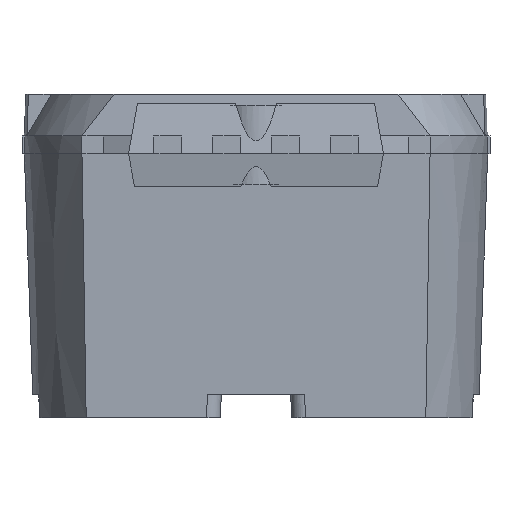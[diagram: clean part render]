
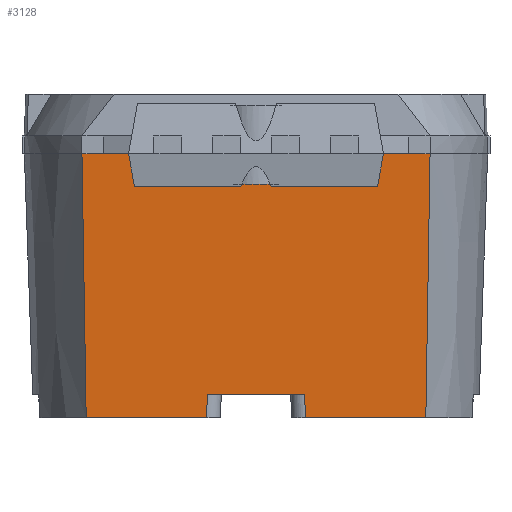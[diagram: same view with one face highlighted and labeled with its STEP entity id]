
A CAD part, front view. The second image highlights one B-rep face of the part: STEP entity #3128.
In plain terms, the highlighted planar face has unit normal (0, -0.999, -0.035) as drawn and (0, -0.999, 0.035) by its records, which use the part's own axes.
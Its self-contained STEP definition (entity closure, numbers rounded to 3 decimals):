
#227 = VERTEX_POINT ( 'NONE', #4248 ) ;
#265 = EDGE_CURVE ( 'NONE', #227, #3396, #6331, .T. ) ;
#277 = ORIENTED_EDGE ( 'NONE', *, *, #4855, .T. ) ;
#574 = CARTESIAN_POINT ( 'NONE',  ( 1.605, -3.3, 0. ) ) ;
#577 = EDGE_CURVE ( 'NONE', #6255, #4517, #5832, .T. ) ;
#580 = CARTESIAN_POINT ( 'NONE',  ( -1.067, -3.101, 5.7 ) ) ;
#602 = CARTESIAN_POINT ( 'NONE',  ( -3.696, -3.167, 3.8 ) ) ;
#722 = CARTESIAN_POINT ( 'NONE',  ( -0.872, -3.296, 0.101 ) ) ;
#783 = EDGE_CURVE ( 'NONE', #957, #3226, #1942, .T. ) ;
#833 = CARTESIAN_POINT ( 'NONE',  ( 1.05, -3.118, 5.2 ) ) ;
#882 = EDGE_CURVE ( 'NONE', #227, #3679, #7308, .T. ) ;
#889 = CARTESIAN_POINT ( 'NONE',  ( 3.756, -3.3, 0. ) ) ;
#957 = VERTEX_POINT ( 'NONE', #3720 ) ;
#1094 = DIRECTION ( 'NONE',  ( 0., -0.035, -0.999 ) ) ;
#1177 = VERTEX_POINT ( 'NONE', #3955 ) ;
#1242 = CARTESIAN_POINT ( 'NONE',  ( -3.756, -3.101, 5.7 ) ) ;
#1305 = ORIENTED_EDGE ( 'NONE', *, *, #1729, .T. ) ;
#1313 = EDGE_CURVE ( 'NONE', #3497, #4517, #7655, .T. ) ;
#1335 = CARTESIAN_POINT ( 'NONE',  ( -3.756, -3.3, 0. ) ) ;
#1341 = ORIENTED_EDGE ( 'NONE', *, *, #6390, .T. ) ;
#1363 = DIRECTION ( 'NONE',  ( 1., 0., 0. ) ) ;
#1373 = VERTEX_POINT ( 'NONE', #5441 ) ;
#1379 = CARTESIAN_POINT ( 'NONE',  ( -3.756, -3.118, 5.2 ) ) ;
#1412 = VECTOR ( 'NONE', #5383, 1000. ) ;
#1432 = LINE ( 'NONE', #6005, #5415 ) ;
#1533 = EDGE_CURVE ( 'NONE', #2166, #1177, #4236, .T. ) ;
#1643 = CARTESIAN_POINT ( 'NONE',  ( -3.756, -3.3, 0. ) ) ;
#1652 = VECTOR ( 'NONE', #3672, 1000. ) ;
#1729 = EDGE_CURVE ( 'NONE', #5762, #2166, #3648, .T. ) ;
#1746 = CARTESIAN_POINT ( 'NONE',  ( -3.756, -3.3, 0. ) ) ;
#1788 = VECTOR ( 'NONE', #4086, 1000. ) ;
#1799 = CARTESIAN_POINT ( 'NONE',  ( -3.756, -3.3, 0. ) ) ;
#1942 = LINE ( 'NONE', #1643, #2026 ) ;
#1966 = DIRECTION ( 'NONE',  ( 1., 0., 0. ) ) ;
#2026 = VECTOR ( 'NONE', #7051, 1000. ) ;
#2040 = CARTESIAN_POINT ( 'NONE',  ( 3.665, -3.101, 5.7 ) ) ;
#2054 = LINE ( 'NONE', #7664, #7530 ) ;
#2143 = CARTESIAN_POINT ( 'NONE',  ( 3.756, -3.3, 0. ) ) ;
#2166 = VERTEX_POINT ( 'NONE', #5995 ) ;
#2177 = AXIS2_PLACEMENT_3D ( 'NONE', #4571, #2781, #1094 ) ;
#2317 = CARTESIAN_POINT ( 'NONE',  ( -3.665, -3.101, 5.7 ) ) ;
#2350 = VECTOR ( 'NONE', #2546, 1000. ) ;
#2399 = CARTESIAN_POINT ( 'NONE',  ( -3.756, -3.101, 5.7 ) ) ;
#2511 = DIRECTION ( 'NONE',  ( 1., 0., 0. ) ) ;
#2543 = VECTOR ( 'NONE', #3585, 1000. ) ;
#2546 = DIRECTION ( 'NONE',  ( 1., 0., 0. ) ) ;
#2607 = CARTESIAN_POINT ( 'NONE',  ( 3.696, -3.167, 3.8 ) ) ;
#2659 = CARTESIAN_POINT ( 'NONE',  ( 3.726, -3.234, 1.9 ) ) ;
#2749 = EDGE_CURVE ( 'NONE', #4791, #3679, #1432, .T. ) ;
#2772 = CARTESIAN_POINT ( 'NONE',  ( 1.067, -3.101, 5.7 ) ) ;
#2781 = DIRECTION ( 'NONE',  ( 0., -0.999, 0.035 ) ) ;
#2915 = CARTESIAN_POINT ( 'NONE',  ( 0.935, -3.3, 0. ) ) ;
#2922 = VECTOR ( 'NONE', #6805, 1000. ) ;
#2983 = LINE ( 'NONE', #1242, #1412 ) ;
#3030 = DIRECTION ( 'NONE',  ( -0.035, -0.035, -0.999 ) ) ;
#3128 = ADVANCED_FACE ( 'NONE', ( #6514 ), #7029, .T. ) ;
#3226 = VERTEX_POINT ( 'NONE', #2915 ) ;
#3343 = VERTEX_POINT ( 'NONE', #5183 ) ;
#3369 = ORIENTED_EDGE ( 'NONE', *, *, #5998, .F. ) ;
#3396 = VERTEX_POINT ( 'NONE', #580 ) ;
#3436 = CARTESIAN_POINT ( 'NONE',  ( -3.726, -3.234, 1.9 ) ) ;
#3497 = VERTEX_POINT ( 'NONE', #6034 ) ;
#3553 = ORIENTED_EDGE ( 'NONE', *, *, #577, .F. ) ;
#3561 = VECTOR ( 'NONE', #7626, 1000. ) ;
#3585 = DIRECTION ( 'NONE',  ( -0.035, 0.035, 0.999 ) ) ;
#3648 = LINE ( 'NONE', #4170, #3561 ) ;
#3672 = DIRECTION ( 'NONE',  ( 1., 0., 0. ) ) ;
#3679 = VERTEX_POINT ( 'NONE', #833 ) ;
#3707 = ORIENTED_EDGE ( 'NONE', *, *, #6115, .T. ) ;
#3720 = CARTESIAN_POINT ( 'NONE',  ( 0.335, -3.3, 0. ) ) ;
#3803 = ORIENTED_EDGE ( 'NONE', *, *, #783, .T. ) ;
#3854 = VERTEX_POINT ( 'NONE', #574 ) ;
#3912 = LINE ( 'NONE', #4313, #2350 ) ;
#3955 = CARTESIAN_POINT ( 'NONE',  ( -0.335, -3.3, 0. ) ) ;
#4036 = ORIENTED_EDGE ( 'NONE', *, *, #1533, .T. ) ;
#4046 = LINE ( 'NONE', #2399, #5251 ) ;
#4079 = ORIENTED_EDGE ( 'NONE', *, *, #882, .F. ) ;
#4086 = DIRECTION ( 'NONE',  ( 1., 0., 0. ) ) ;
#4170 = CARTESIAN_POINT ( 'NONE',  ( -3.756, -3.3, 0. ) ) ;
#4235 = EDGE_CURVE ( 'NONE', #1177, #957, #3912, .T. ) ;
#4236 = LINE ( 'NONE', #6778, #2922 ) ;
#4248 = CARTESIAN_POINT ( 'NONE',  ( -1.05, -3.118, 5.2 ) ) ;
#4313 = CARTESIAN_POINT ( 'NONE',  ( -3.756, -3.3, 0. ) ) ;
#4363 = EDGE_CURVE ( 'NONE', #1373, #3396, #2983, .T. ) ;
#4367 = VERTEX_POINT ( 'NONE', #7390 ) ;
#4517 = VERTEX_POINT ( 'NONE', #2143 ) ;
#4571 = CARTESIAN_POINT ( 'NONE',  ( -3.756, -3.3, 0. ) ) ;
#4791 = VERTEX_POINT ( 'NONE', #2772 ) ;
#4855 = EDGE_CURVE ( 'NONE', #4367, #3343, #2054, .T. ) ;
#4945 = ORIENTED_EDGE ( 'NONE', *, *, #2749, .T. ) ;
#4970 = VECTOR ( 'NONE', #1363, 1000. ) ;
#5183 = CARTESIAN_POINT ( 'NONE',  ( -2.205, -3.3, 0. ) ) ;
#5251 = VECTOR ( 'NONE', #6530, 1000. ) ;
#5383 = DIRECTION ( 'NONE',  ( 1., 0., 0. ) ) ;
#5415 = VECTOR ( 'NONE', #3030, 1000. ) ;
#5435 = ORIENTED_EDGE ( 'NONE', *, *, #4235, .T. ) ;
#5441 = CARTESIAN_POINT ( 'NONE',  ( -3.665, -3.101, 5.7 ) ) ;
#5473 = LINE ( 'NONE', #6055, #7527 ) ;
#5476 = CARTESIAN_POINT ( 'NONE',  ( -3.756, -3.3, 0. ) ) ;
#5644 = B_SPLINE_CURVE_WITH_KNOTS ( 'NONE', 3,
 ( #2317, #602, #3436, #1799 ),
 .UNSPECIFIED., .F., .F.,
 ( 4, 4 ),
 ( 0., 0.006 ),
 .UNSPECIFIED. ) ;
#5714 = VECTOR ( 'NONE', #1966, 1000. ) ;
#5757 = LINE ( 'NONE', #1746, #1788 ) ;
#5762 = VERTEX_POINT ( 'NONE', #7520 ) ;
#5810 = ORIENTED_EDGE ( 'NONE', *, *, #4363, .F. ) ;
#5832 = B_SPLINE_CURVE_WITH_KNOTS ( 'NONE', 3,
 ( #2040, #2607, #2659, #889 ),
 .UNSPECIFIED., .F., .F.,
 ( 4, 4 ),
 ( 0., 0.006 ),
 .UNSPECIFIED. ) ;
#5995 = CARTESIAN_POINT ( 'NONE',  ( -0.935, -3.3, 0. ) ) ;
#5998 = EDGE_CURVE ( 'NONE', #4791, #6255, #4046, .T. ) ;
#6005 = CARTESIAN_POINT ( 'NONE',  ( 1.049, -3.119, 5.19 ) ) ;
#6034 = CARTESIAN_POINT ( 'NONE',  ( 2.205, -3.3, 0. ) ) ;
#6055 = CARTESIAN_POINT ( 'NONE',  ( -3.756, -3.3, 0. ) ) ;
#6115 = EDGE_CURVE ( 'NONE', #3854, #3497, #6936, .T. ) ;
#6255 = VERTEX_POINT ( 'NONE', #6951 ) ;
#6331 = LINE ( 'NONE', #722, #2543 ) ;
#6389 = ORIENTED_EDGE ( 'NONE', *, *, #265, .T. ) ;
#6390 = EDGE_CURVE ( 'NONE', #3226, #3854, #5757, .T. ) ;
#6419 = EDGE_CURVE ( 'NONE', #1373, #4367, #5644, .T. ) ;
#6483 = ORIENTED_EDGE ( 'NONE', *, *, #1313, .T. ) ;
#6514 = FACE_OUTER_BOUND ( 'NONE', #7521, .T. ) ;
#6530 = DIRECTION ( 'NONE',  ( 1., 0., 0. ) ) ;
#6536 = EDGE_CURVE ( 'NONE', #3343, #5762, #5473, .T. ) ;
#6544 = DIRECTION ( 'NONE',  ( 1., 0., 0. ) ) ;
#6634 = ORIENTED_EDGE ( 'NONE', *, *, #6419, .T. ) ;
#6778 = CARTESIAN_POINT ( 'NONE',  ( -3.756, -3.3, 0. ) ) ;
#6805 = DIRECTION ( 'NONE',  ( 1., 0., 0. ) ) ;
#6936 = LINE ( 'NONE', #1335, #1652 ) ;
#6951 = CARTESIAN_POINT ( 'NONE',  ( 3.665, -3.101, 5.7 ) ) ;
#7029 = PLANE ( 'NONE',  #2177 ) ;
#7051 = DIRECTION ( 'NONE',  ( 1., 0., 0. ) ) ;
#7214 = ORIENTED_EDGE ( 'NONE', *, *, #6536, .T. ) ;
#7308 = LINE ( 'NONE', #1379, #5714 ) ;
#7390 = CARTESIAN_POINT ( 'NONE',  ( -3.756, -3.3, 0. ) ) ;
#7520 = CARTESIAN_POINT ( 'NONE',  ( -1.605, -3.3, 0. ) ) ;
#7521 = EDGE_LOOP ( 'NONE', ( #3369, #4945, #4079, #6389, #5810, #6634, #277, #7214, #1305, #4036, #5435, #3803, #1341, #3707, #6483, #3553 ) ) ;
#7527 = VECTOR ( 'NONE', #2511, 1000. ) ;
#7530 = VECTOR ( 'NONE', #6544, 1000. ) ;
#7626 = DIRECTION ( 'NONE',  ( 1., 0., 0. ) ) ;
#7655 = LINE ( 'NONE', #5476, #4970 ) ;
#7664 = CARTESIAN_POINT ( 'NONE',  ( -3.756, -3.3, 0. ) ) ;
